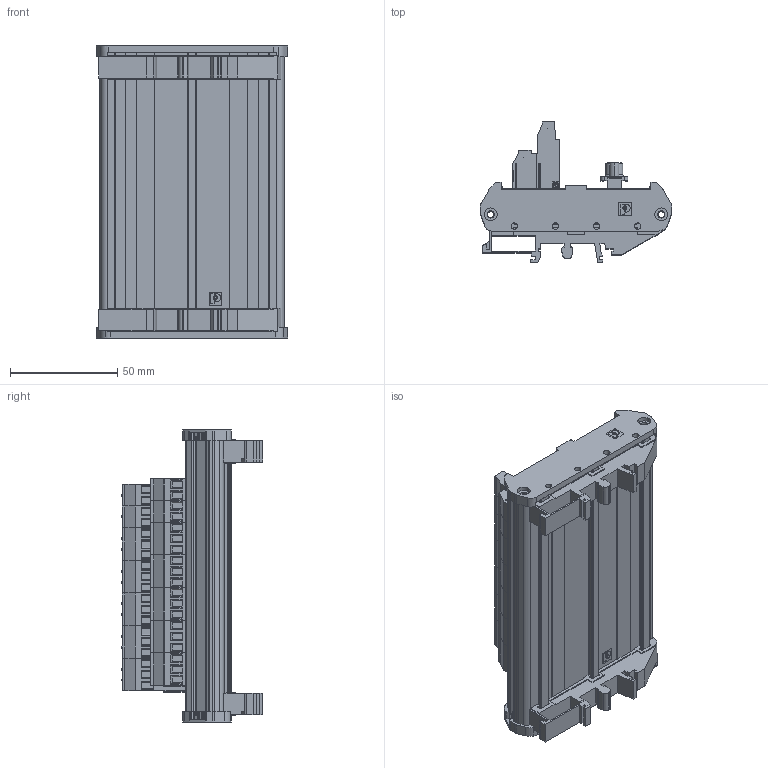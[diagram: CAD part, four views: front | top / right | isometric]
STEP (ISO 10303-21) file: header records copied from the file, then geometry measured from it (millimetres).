
FILE_DESCRIPTION((''),'2;1');
FILE_NAME('CB-37F-HVD_ASM','2014-03-21T',('dkendric'),(''),'PRO/ENGINEER BY PARAMETRIC TECHNOLOGY CORPORATION, 2011490','PRO/ENGINEER BY PARAMETRIC TECHNOLOGY CORPORATION, 2011490','');
FILE_SCHEMA(('CONFIG_CONTROL_DESIGN'));
Products named in the file (8): 2952020_WIDTH_72; 2959337_2; 2959382_2; PCB_CB-37F-HVD; 1721728; 1721731; C-1-5747301-4-A-3D; CB-37F-HVD_ASM
Assembly tree (14 placements, depth 2):
  CB-37F-HVD_ASM
    2952020_WIDTH_72
    2959337_2  x2
    2959382_2  x2
    PCB_CB-37F-HVD
    1721728  x2
    1721731  x5
    C-1-5747301-4-A-3D
Bounding box: 89.6 x 66 x 136.48 mm (x, y, z)
Volume: 133603.4 mm3; surface area: 111056.5 mm2
Topology: 16 solids, 16 shells, 3638 faces, 9530 edges, 6206 vertices
Faces by surface type: plane 2386, cylinder 1146, cone 78, sphere 24, torus 4
Entity records: 52908 total; most frequent: CARTESIAN_POINT 9735, DIRECTION 9137, ORIENTED_EDGE 8840, EDGE_CURVE 4420, VECTOR 3049, LINE 3049, AXIS2_PLACEMENT_3D 3044, VERTEX_POINT 2873
